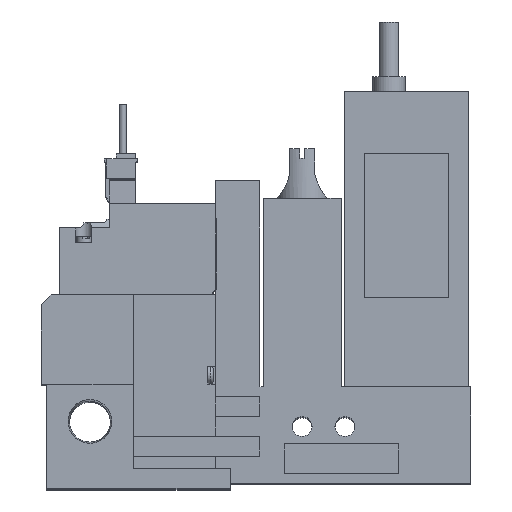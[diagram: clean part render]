
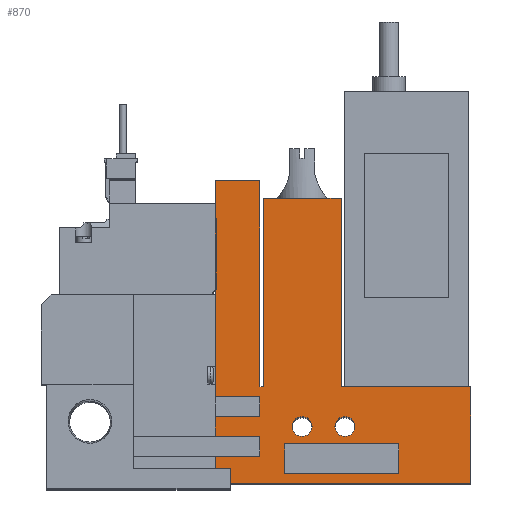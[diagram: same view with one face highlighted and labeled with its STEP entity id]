
A CAD part, top view. The second image highlights one B-rep face of the part: STEP entity #870.
In plain terms, the highlighted planar face has unit normal (0, 0, 1).
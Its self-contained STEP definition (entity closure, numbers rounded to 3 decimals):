
#870=ADVANCED_FACE('',(#1710,#1711,#1712,#1713),#1714,.T.);
#1710=FACE_OUTER_BOUND('',#2903,.T.);
#1711=FACE_BOUND('',#2904,.T.);
#1712=FACE_BOUND('',#2905,.T.);
#1713=FACE_BOUND('',#2906,.T.);
#1714=PLANE('',#2907);
#2903=EDGE_LOOP('',(#5822,#5823,#5824,#5825,#5826,#5827,#5828,#5829,#5830,#5831,#5832,#5833,#5834,#5835,#5836,#5837,#5838,#5839));
#2904=EDGE_LOOP('',(#5840,#5841,#5842,#5843));
#2905=EDGE_LOOP('',(#5844));
#2906=EDGE_LOOP('',(#5845));
#2907=AXIS2_PLACEMENT_3D('',#5846,#5847,#5848);
#5822=ORIENTED_EDGE('',*,*,#8047,.T.);
#5823=ORIENTED_EDGE('',*,*,#8062,.T.);
#5824=ORIENTED_EDGE('',*,*,#8063,.T.);
#5825=ORIENTED_EDGE('',*,*,#8064,.T.);
#5826=ORIENTED_EDGE('',*,*,#8065,.T.);
#5827=ORIENTED_EDGE('',*,*,#8066,.T.);
#5828=ORIENTED_EDGE('',*,*,#8067,.T.);
#5829=ORIENTED_EDGE('',*,*,#7974,.T.);
#5830=ORIENTED_EDGE('',*,*,#8036,.T.);
#5831=ORIENTED_EDGE('',*,*,#7979,.T.);
#5832=ORIENTED_EDGE('',*,*,#7941,.T.);
#5833=ORIENTED_EDGE('',*,*,#8068,.T.);
#5834=ORIENTED_EDGE('',*,*,#7956,.T.);
#5835=ORIENTED_EDGE('',*,*,#8069,.T.);
#5836=ORIENTED_EDGE('',*,*,#8070,.T.);
#5837=ORIENTED_EDGE('',*,*,#8071,.T.);
#5838=ORIENTED_EDGE('',*,*,#7950,.T.);
#5839=ORIENTED_EDGE('',*,*,#8072,.T.);
#5840=ORIENTED_EDGE('',*,*,#8025,.T.);
#5841=ORIENTED_EDGE('',*,*,#8057,.T.);
#5842=ORIENTED_EDGE('',*,*,#8056,.T.);
#5843=ORIENTED_EDGE('',*,*,#8073,.T.);
#5844=ORIENTED_EDGE('',*,*,#8014,.T.);
#5845=ORIENTED_EDGE('',*,*,#8074,.T.);
#5846=CARTESIAN_POINT('',(0.0,0.0,10.0));
#5847=DIRECTION('',(0.0,0.0,1.0));
#5848=DIRECTION('',(1.0,0.0,0.0));
#7941=EDGE_CURVE('',#9561,#9559,#9562,.T.);
#7950=EDGE_CURVE('',#9578,#9576,#9579,.T.);
#7956=EDGE_CURVE('',#9589,#9587,#9590,.T.);
#7974=EDGE_CURVE('',#9625,#9623,#9626,.T.);
#7979=EDGE_CURVE('',#9633,#9561,#9634,.T.);
#8014=EDGE_CURVE('',#9699,#9699,#9700,.T.);
#8025=EDGE_CURVE('',#9710,#9715,#9717,.T.);
#8036=EDGE_CURVE('',#9623,#9633,#9735,.T.);
#8047=EDGE_CURVE('',#9753,#9751,#9754,.T.);
#8056=EDGE_CURVE('',#9763,#9765,#9767,.T.);
#8057=EDGE_CURVE('',#9715,#9763,#9768,.T.);
#8062=EDGE_CURVE('',#9751,#9775,#9776,.T.);
#8063=EDGE_CURVE('',#9775,#9777,#9778,.T.);
#8064=EDGE_CURVE('',#9777,#9779,#9780,.T.);
#8065=EDGE_CURVE('',#9779,#9781,#9782,.T.);
#8066=EDGE_CURVE('',#9781,#9783,#9784,.T.);
#8067=EDGE_CURVE('',#9783,#9625,#9785,.T.);
#8068=EDGE_CURVE('',#9559,#9589,#9786,.T.);
#8069=EDGE_CURVE('',#9587,#9787,#9788,.T.);
#8070=EDGE_CURVE('',#9787,#9789,#9790,.T.);
#8071=EDGE_CURVE('',#9789,#9578,#9791,.T.);
#8072=EDGE_CURVE('',#9576,#9753,#9792,.T.);
#8073=EDGE_CURVE('',#9765,#9710,#9793,.T.);
#8074=EDGE_CURVE('',#9794,#9794,#9795,.T.);
#9559=VERTEX_POINT('',#12163);
#9561=VERTEX_POINT('',#12166);
#9562=LINE('',#12167,#12168);
#9576=VERTEX_POINT('',#12187);
#9578=VERTEX_POINT('',#12190);
#9579=LINE('',#12191,#12192);
#9587=VERTEX_POINT('',#12204);
#9589=VERTEX_POINT('',#12207);
#9590=LINE('',#12208,#12209);
#9623=VERTEX_POINT('',#12258);
#9625=VERTEX_POINT('',#12261);
#9626=LINE('',#12262,#12263);
#9633=VERTEX_POINT('',#12274);
#9634=LINE('',#12275,#12276);
#9699=VERTEX_POINT('',#12372);
#9700=CIRCLE('',#12373,2.0);
#9710=VERTEX_POINT('',#12388);
#9715=VERTEX_POINT('',#12395);
#9717=LINE('',#12398,#12399);
#9735=LINE('',#12427,#12428);
#9751=VERTEX_POINT('',#12453);
#9753=VERTEX_POINT('',#12456);
#9754=LINE('',#12457,#12458);
#9763=VERTEX_POINT('',#12473);
#9765=VERTEX_POINT('',#12476);
#9767=LINE('',#12479,#12480);
#9768=LINE('',#12481,#12482);
#9775=VERTEX_POINT('',#12493);
#9776=LINE('',#12494,#12495);
#9777=VERTEX_POINT('',#12496);
#9778=LINE('',#12497,#12498);
#9779=VERTEX_POINT('',#12499);
#9780=LINE('',#12500,#12501);
#9781=VERTEX_POINT('',#12502);
#9782=LINE('',#12503,#12504);
#9783=VERTEX_POINT('',#12505);
#9784=LINE('',#12506,#12507);
#9785=LINE('',#12508,#12509);
#9786=LINE('',#12510,#12511);
#9787=VERTEX_POINT('',#12512);
#9788=LINE('',#12513,#12514);
#9789=VERTEX_POINT('',#12515);
#9790=LINE('',#12516,#12517);
#9791=LINE('',#12518,#12519);
#9792=LINE('',#12520,#12521);
#9793=LINE('',#12522,#12523);
#9794=VERTEX_POINT('',#12524);
#9795=CIRCLE('',#12525,2.0);
#12163=CARTESIAN_POINT('',(86.6,19.5,10.0));
#12166=CARTESIAN_POINT('',(86.6,0.0,10.0));
#12167=CARTESIAN_POINT('',(86.6,0.0,10.0));
#12168=VECTOR('',#14523,1.0);
#12187=CARTESIAN_POINT('',(44.1,61.0,10.0));
#12190=CARTESIAN_POINT('',(44.1,19.5,10.0));
#12191=CARTESIAN_POINT('',(44.1,19.5,10.0));
#12192=VECTOR('',#14536,1.0);
#12204=CARTESIAN_POINT('',(60.45,57.5,10.0));
#12207=CARTESIAN_POINT('',(60.45,19.5,10.0));
#12208=CARTESIAN_POINT('',(60.45,19.5,10.0));
#12209=VECTOR('',#14542,1.0);
#12258=CARTESIAN_POINT('',(35.1,5.5,10.0));
#12261=CARTESIAN_POINT('',(44.1,5.5,10.0));
#12262=CARTESIAN_POINT('',(0.0,5.5,10.0));
#12263=VECTOR('',#14560,1.0);
#12274=CARTESIAN_POINT('',(35.1,0.0,10.0));
#12275=CARTESIAN_POINT('',(18.6,0.0,10.0));
#12276=VECTOR('',#14565,1.0);
#12372=CARTESIAN_POINT('',(54.6,11.5,10.0));
#12373=AXIS2_PLACEMENT_3D('',#14606,#14607,#14608);
#12388=CARTESIAN_POINT('',(49.1,2.0,10.0));
#12395=CARTESIAN_POINT('',(49.1,8.0,10.0));
#12398=CARTESIAN_POINT('',(49.1,0.0,10.0));
#12399=VECTOR('',#14620,1.0);
#12427=CARTESIAN_POINT('',(35.1,0.0,10.0));
#12428=VECTOR('',#14631,1.0);
#12453=CARTESIAN_POINT('',(35.1,17.5,10.0));
#12456=CARTESIAN_POINT('',(35.1,61.0,10.0));
#12457=CARTESIAN_POINT('',(35.1,61.0,10.0));
#12458=VECTOR('',#14642,1.0);
#12473=CARTESIAN_POINT('',(72.1,8.0,10.0));
#12476=CARTESIAN_POINT('',(72.1,2.0,10.0));
#12479=CARTESIAN_POINT('',(72.1,0.0,10.0));
#12480=VECTOR('',#14651,1.0);
#12481=CARTESIAN_POINT('',(0.0,8.0,10.0));
#12482=VECTOR('',#14652,1.0);
#12493=CARTESIAN_POINT('',(44.1,17.5,10.0));
#12494=CARTESIAN_POINT('',(0.0,17.5,10.0));
#12495=VECTOR('',#14657,1.0);
#12496=CARTESIAN_POINT('',(44.1,13.5,10.0));
#12497=CARTESIAN_POINT('',(44.1,0.0,10.0));
#12498=VECTOR('',#14658,1.0);
#12499=CARTESIAN_POINT('',(35.1,13.5,10.0));
#12500=CARTESIAN_POINT('',(0.0,13.5,10.0));
#12501=VECTOR('',#14659,1.0);
#12502=CARTESIAN_POINT('',(35.1,9.5,10.0));
#12503=CARTESIAN_POINT('',(35.1,0.0,10.0));
#12504=VECTOR('',#14660,1.0);
#12505=CARTESIAN_POINT('',(44.1,9.5,10.0));
#12506=CARTESIAN_POINT('',(0.0,9.5,10.0));
#12507=VECTOR('',#14661,1.0);
#12508=CARTESIAN_POINT('',(44.1,0.0,10.0));
#12509=VECTOR('',#14662,1.0);
#12510=CARTESIAN_POINT('',(86.6,19.5,10.0));
#12511=VECTOR('',#14663,1.0);
#12512=CARTESIAN_POINT('',(44.75,57.5,10.0));
#12513=CARTESIAN_POINT('',(60.45,57.5,10.0));
#12514=VECTOR('',#14664,1.0);
#12515=CARTESIAN_POINT('',(44.75,19.5,10.0));
#12516=CARTESIAN_POINT('',(44.75,57.5,10.0));
#12517=VECTOR('',#14665,1.0);
#12518=CARTESIAN_POINT('',(44.75,19.5,10.0));
#12519=VECTOR('',#14666,1.0);
#12520=CARTESIAN_POINT('',(44.1,61.0,10.0));
#12521=VECTOR('',#14667,1.0);
#12522=CARTESIAN_POINT('',(0.0,2.0,10.0));
#12523=VECTOR('',#14668,1.0);
#12524=CARTESIAN_POINT('',(63.2,11.5,10.0));
#12525=AXIS2_PLACEMENT_3D('',#14669,#14670,#14671);
#14523=DIRECTION('',(0.0,1.0,0.0));
#14536=DIRECTION('',(0.0,1.0,0.0));
#14542=DIRECTION('',(0.0,1.0,0.0));
#14560=DIRECTION('',(-1.0,0.0,0.0));
#14565=DIRECTION('',(1.0,0.0,0.0));
#14606=CARTESIAN_POINT('',(52.6,11.5,10.0));
#14607=DIRECTION('',(0.0,0.0,-1.0));
#14608=DIRECTION('',(1.0,0.0,0.0));
#14620=DIRECTION('',(0.0,1.0,0.0));
#14631=DIRECTION('',(0.0,-1.0,0.0));
#14642=DIRECTION('',(0.0,-1.0,0.0));
#14651=DIRECTION('',(0.0,-1.0,0.0));
#14652=DIRECTION('',(1.0,0.0,0.0));
#14657=DIRECTION('',(1.0,0.0,0.0));
#14658=DIRECTION('',(0.0,-1.0,0.0));
#14659=DIRECTION('',(-1.0,0.0,0.0));
#14660=DIRECTION('',(0.0,-1.0,0.0));
#14661=DIRECTION('',(1.0,0.0,0.0));
#14662=DIRECTION('',(0.0,-1.0,0.0));
#14663=DIRECTION('',(-1.0,0.0,0.0));
#14664=DIRECTION('',(-1.0,0.0,0.0));
#14665=DIRECTION('',(0.0,-1.0,0.0));
#14666=DIRECTION('',(-1.0,0.0,0.0));
#14667=DIRECTION('',(-1.0,0.0,0.0));
#14668=DIRECTION('',(-1.0,0.0,0.0));
#14669=CARTESIAN_POINT('',(61.2,11.5,10.0));
#14670=DIRECTION('',(0.0,0.0,-1.0));
#14671=DIRECTION('',(1.0,0.0,0.0));
